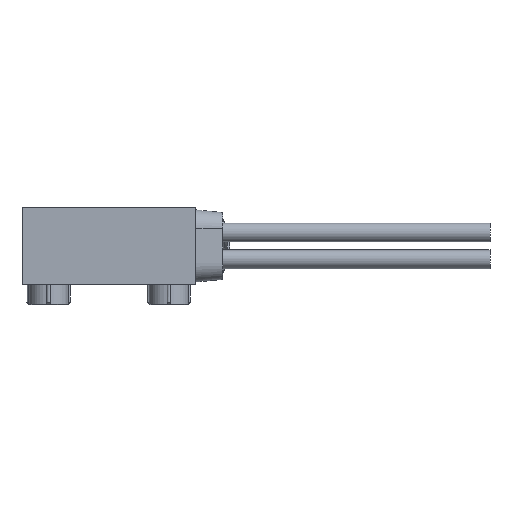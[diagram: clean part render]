
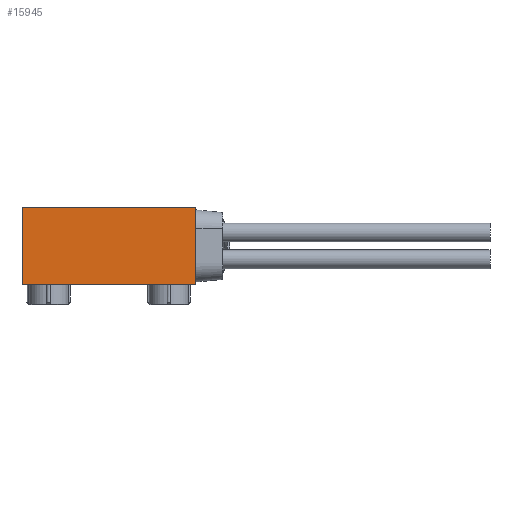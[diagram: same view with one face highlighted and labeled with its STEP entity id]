
A CAD part, front view. The second image highlights one B-rep face of the part: STEP entity #15945.
In plain terms, the highlighted planar face has unit normal (0, -1, 0).
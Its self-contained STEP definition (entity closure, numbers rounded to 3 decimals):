
#5906 = EDGE_CURVE ( 'NONE', #5916, #5908, #6977, .T. ) ;
#5908 = VERTEX_POINT ( 'NONE', #6973 ) ;
#5916 = VERTEX_POINT ( 'NONE', #6968 ) ;
#5952 = VERTEX_POINT ( 'NONE', #6927 ) ;
#5975 = EDGE_CURVE ( 'NONE', #5977, #5952, #6922, .T. ) ;
#5977 = VERTEX_POINT ( 'NONE', #6918 ) ;
#6180 = EDGE_CURVE ( 'NONE', #5916, #5977, #6687, .T. ) ;
#6202 = EDGE_CURVE ( 'NONE', #5908, #5952, #7221, .T. ) ;
#6684 = DIRECTION ( 'NONE',  ( 0., 0., -1. ) ) ;
#6685 = VECTOR ( 'NONE', #6684, 1000. ) ;
#6686 = CARTESIAN_POINT ( 'NONE',  ( -6.5, -3.645, 2.9 ) ) ;
#6687 = LINE ( 'NONE', #6686, #6685 ) ;
#6918 = CARTESIAN_POINT ( 'NONE',  ( -6.5, -3.645, -2.9 ) ) ;
#6919 = DIRECTION ( 'NONE',  ( 1., 0., 0. ) ) ;
#6920 = VECTOR ( 'NONE', #6919, 1000. ) ;
#6921 = CARTESIAN_POINT ( 'NONE',  ( 6.5, -3.645, -2.9 ) ) ;
#6922 = LINE ( 'NONE', #6921, #6920 ) ;
#6927 = CARTESIAN_POINT ( 'NONE',  ( 6.5, -3.645, -2.9 ) ) ;
#6968 = CARTESIAN_POINT ( 'NONE',  ( -6.5, -3.645, 2.9 ) ) ;
#6973 = CARTESIAN_POINT ( 'NONE',  ( 6.5, -3.645, 2.9 ) ) ;
#6974 = DIRECTION ( 'NONE',  ( 1., 0., 0. ) ) ;
#6975 = VECTOR ( 'NONE', #6974, 1000. ) ;
#6976 = CARTESIAN_POINT ( 'NONE',  ( 6.5, -3.645, 2.9 ) ) ;
#6977 = LINE ( 'NONE', #6976, #6975 ) ;
#7181 = DIRECTION ( 'NONE',  ( 0., 0., -1. ) ) ;
#7219 = VECTOR ( 'NONE', #7181, 1000. ) ;
#7220 = CARTESIAN_POINT ( 'NONE',  ( 6.5, -3.645, 2.9 ) ) ;
#7221 = LINE ( 'NONE', #7220, #7219 ) ;
#15810 = ORIENTED_EDGE ( 'NONE', *, *, #6202, .F. ) ;
#15811 = ORIENTED_EDGE ( 'NONE', *, *, #5906, .F. ) ;
#15813 = ORIENTED_EDGE ( 'NONE', *, *, #5975, .T. ) ;
#15835 = ORIENTED_EDGE ( 'NONE', *, *, #6180, .T. ) ;
#15945 = ADVANCED_FACE ( 'NONE', ( #18173 ), #18158, .F. ) ;
#15946 = EDGE_LOOP ( 'NONE', ( #15813, #15810, #15811, #15835 ) ) ;
#18154 = DIRECTION ( 'NONE',  ( -1., 0., 0. ) ) ;
#18155 = DIRECTION ( 'NONE',  ( 0., 1., 0. ) ) ;
#18156 = CARTESIAN_POINT ( 'NONE',  ( 6.5, -3.645, 2.9 ) ) ;
#18157 = AXIS2_PLACEMENT_3D ( 'NONE', #18156, #18155, #18154 ) ;
#18158 = PLANE ( 'NONE',  #18157 ) ;
#18173 = FACE_OUTER_BOUND ( 'NONE', #15946, .T. ) ;
